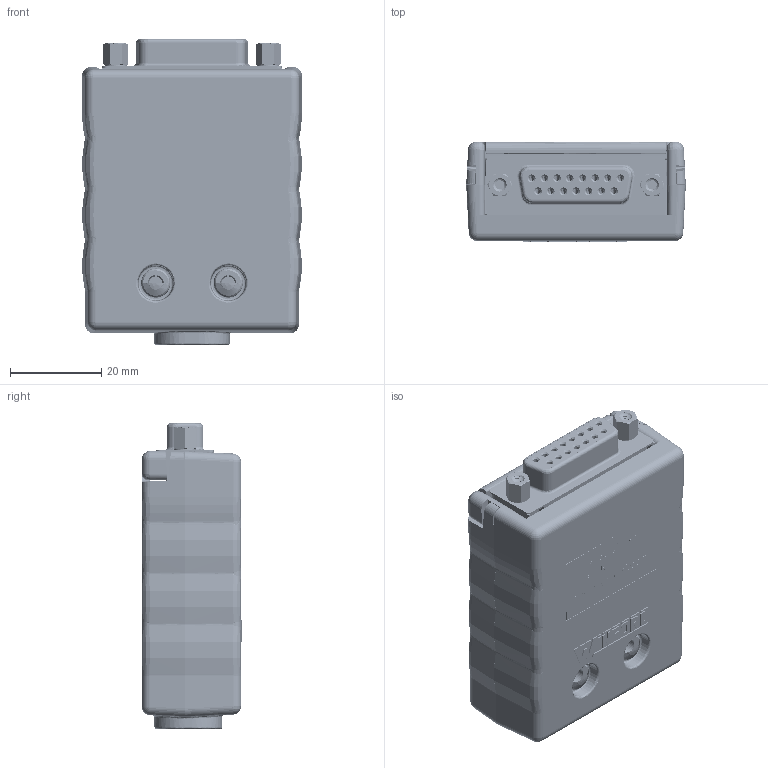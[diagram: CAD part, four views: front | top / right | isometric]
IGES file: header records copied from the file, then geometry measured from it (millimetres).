
Start section: SolidWorks IGES file using analytic representation for surfaces
Global section: file name: W:\end-user\products\brk\brke\brkegd15\brkegd15f\3dmodel\2024-09-04_rev_b\render\brkegd15f-r_rev_b.igs; native system: SolidWorks 2018; preprocessor: SolidWorks 2018; author: leviroy; date: 240905.101047; units: inch
Bounding box: 48.07 x 22 x 66.88 mm (x, y, z)
Surface area: 42340.5 mm2 (no closed solid volume)
Topology: 0 solids, 0 shells, 15268 faces, 116255 edges, 116229 vertices
Faces by surface type: bspline 11176, revolution 4092
